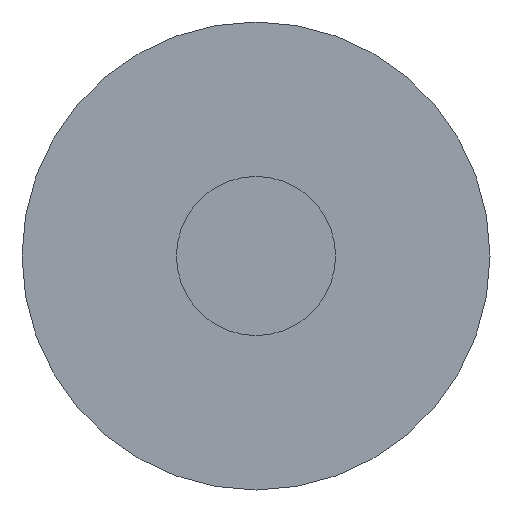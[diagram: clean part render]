
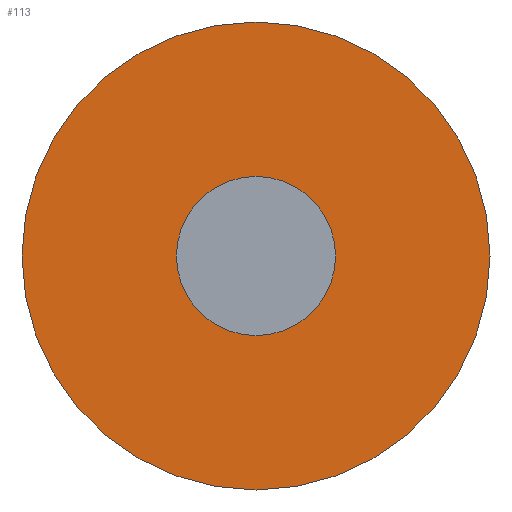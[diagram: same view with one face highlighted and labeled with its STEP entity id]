
A CAD part, front view. The second image highlights one B-rep face of the part: STEP entity #113.
In plain terms, the highlighted planar face has unit normal (0, -1, 0).
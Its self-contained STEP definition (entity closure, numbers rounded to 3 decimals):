
#22 = VERTEX_POINT('',#23);
#23 = CARTESIAN_POINT('',(-68.,46.4,2.));
#32 = CYLINDRICAL_SURFACE('',#33,5.);
#33 = AXIS2_PLACEMENT_3D('',#34,#35,#36);
#34 = CARTESIAN_POINT('',(-63.,46.4,2.));
#35 = DIRECTION('',(0.,-1.,0.));
#36 = DIRECTION('',(-1.,-0.,-0.));
#83 = EDGE_CURVE('',#22,#22,#84,.T.);
#84 = SURFACE_CURVE('',#85,(#90,#97),.PCURVE_S1.);
#85 = CIRCLE('',#86,5.);
#86 = AXIS2_PLACEMENT_3D('',#87,#88,#89);
#87 = CARTESIAN_POINT('',(-63.,46.4,2.));
#88 = DIRECTION('',(0.,-1.,0.));
#89 = DIRECTION('',(-1.,-0.,-0.));
#90 = PCURVE('',#32,#91);
#91 = DEFINITIONAL_REPRESENTATION('',(#92),#96);
#92 = LINE('',#93,#94);
#93 = CARTESIAN_POINT('',(0.,0.));
#94 = VECTOR('',#95,1.);
#95 = DIRECTION('',(1.,0.));
#96 = ( GEOMETRIC_REPRESENTATION_CONTEXT(2) 
PARAMETRIC_REPRESENTATION_CONTEXT() REPRESENTATION_CONTEXT('2D SPACE',''
  ) );
#97 = PCURVE('',#98,#103);
#98 = PLANE('',#99);
#99 = AXIS2_PLACEMENT_3D('',#100,#101,#102);
#100 = CARTESIAN_POINT('',(-63.,46.4,2.));
#101 = DIRECTION('',(-0.,1.,0.));
#102 = DIRECTION('',(1.,0.,0.));
#103 = DEFINITIONAL_REPRESENTATION('',(#104),#112);
#104 = ( BOUNDED_CURVE() B_SPLINE_CURVE(2,(#105,#106,#107,#108,#109,#110
,#111),.UNSPECIFIED.,.T.,.F.) B_SPLINE_CURVE_WITH_KNOTS((1,2,2,2,2,1),(
    -2.094,0.,2.094,4.189,6.283,
8.378),.UNSPECIFIED.) CURVE() GEOMETRIC_REPRESENTATION_ITEM() 
RATIONAL_B_SPLINE_CURVE((1.,0.5,1.,0.5,1.,0.5,1.)) REPRESENTATION_ITEM(
  '') );
#105 = CARTESIAN_POINT('',(-5.,0.));
#106 = CARTESIAN_POINT('',(-5.,8.66));
#107 = CARTESIAN_POINT('',(2.5,4.33));
#108 = CARTESIAN_POINT('',(10.,0.));
#109 = CARTESIAN_POINT('',(2.5,-4.33));
#110 = CARTESIAN_POINT('',(-5.,-8.66));
#111 = CARTESIAN_POINT('',(-5.,0.));
#112 = ( GEOMETRIC_REPRESENTATION_CONTEXT(2) 
PARAMETRIC_REPRESENTATION_CONTEXT() REPRESENTATION_CONTEXT('2D SPACE',''
  ) );
#113 = ADVANCED_FACE('',(#114,#117),#98,.F.);
#114 = FACE_BOUND('',#115,.T.);
#115 = EDGE_LOOP('',(#116));
#116 = ORIENTED_EDGE('',*,*,#83,.T.);
#117 = FACE_BOUND('',#118,.T.);
#118 = EDGE_LOOP('',(#119));
#119 = ORIENTED_EDGE('',*,*,#120,.F.);
#120 = EDGE_CURVE('',#121,#121,#123,.T.);
#121 = VERTEX_POINT('',#122);
#122 = CARTESIAN_POINT('',(-64.7,46.4,2.));
#123 = SURFACE_CURVE('',#124,(#129,#140),.PCURVE_S1.);
#124 = CIRCLE('',#125,1.7);
#125 = AXIS2_PLACEMENT_3D('',#126,#127,#128);
#126 = CARTESIAN_POINT('',(-63.,46.4,2.));
#127 = DIRECTION('',(0.,-1.,0.));
#128 = DIRECTION('',(-1.,-0.,-0.));
#129 = PCURVE('',#98,#130);
#130 = DEFINITIONAL_REPRESENTATION('',(#131),#139);
#131 = ( BOUNDED_CURVE() B_SPLINE_CURVE(2,(#132,#133,#134,#135,#136,#137
,#138),.UNSPECIFIED.,.T.,.F.) B_SPLINE_CURVE_WITH_KNOTS((1,2,2,2,2,1),(
    -2.094,0.,2.094,4.189,6.283,
8.378),.UNSPECIFIED.) CURVE() GEOMETRIC_REPRESENTATION_ITEM() 
RATIONAL_B_SPLINE_CURVE((1.,0.5,1.,0.5,1.,0.5,1.)) REPRESENTATION_ITEM(
  '') );
#132 = CARTESIAN_POINT('',(-1.7,0.));
#133 = CARTESIAN_POINT('',(-1.7,2.944));
#134 = CARTESIAN_POINT('',(0.85,1.472));
#135 = CARTESIAN_POINT('',(3.4,0.));
#136 = CARTESIAN_POINT('',(0.85,-1.472));
#137 = CARTESIAN_POINT('',(-1.7,-2.944));
#138 = CARTESIAN_POINT('',(-1.7,0.));
#139 = ( GEOMETRIC_REPRESENTATION_CONTEXT(2) 
PARAMETRIC_REPRESENTATION_CONTEXT() REPRESENTATION_CONTEXT('2D SPACE',''
  ) );
#140 = PCURVE('',#141,#146);
#141 = CYLINDRICAL_SURFACE('',#142,1.7);
#142 = AXIS2_PLACEMENT_3D('',#143,#144,#145);
#143 = CARTESIAN_POINT('',(-63.,40.,2.));
#144 = DIRECTION('',(0.,-1.,0.));
#145 = DIRECTION('',(-1.,-0.,-0.));
#146 = DEFINITIONAL_REPRESENTATION('',(#147),#151);
#147 = LINE('',#148,#149);
#148 = CARTESIAN_POINT('',(0.,-6.4));
#149 = VECTOR('',#150,1.);
#150 = DIRECTION('',(1.,0.));
#151 = ( GEOMETRIC_REPRESENTATION_CONTEXT(2) 
PARAMETRIC_REPRESENTATION_CONTEXT() REPRESENTATION_CONTEXT('2D SPACE',''
  ) );
